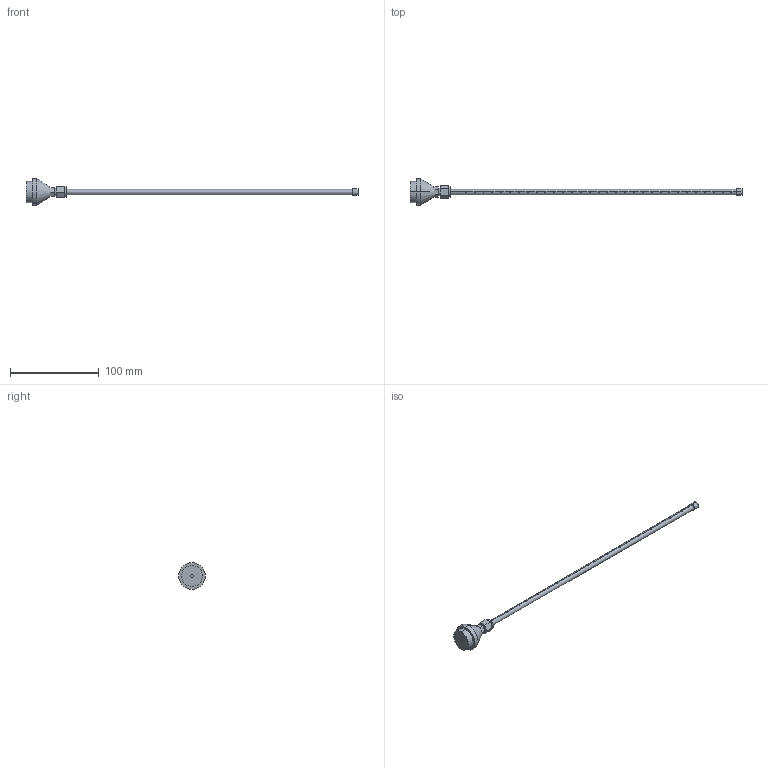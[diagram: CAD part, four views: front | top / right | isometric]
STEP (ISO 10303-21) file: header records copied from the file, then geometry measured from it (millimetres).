
FILE_DESCRIPTION (( 'STEP AP203' ), '1' );
FILE_NAME ('ER-AB30.STEP', '2005-09-05T00:34:01', ( '' ), ( '' ), 'SwSTEP 2.0', 'SolidWorks 2004073', '' );
FILE_SCHEMA (( 'CONFIG_CONTROL_DESIGN' ));
Length unit declared in the file: millimetre
Products named in the file (1): ER-AB30
Bounding box: 375 x 30 x 30 mm (x, y, z)
Volume: 20897.1 mm3; surface area: 13672.2 mm2
Topology: 1 solids, 1 shells, 105 faces, 340 edges, 182 vertices
Faces by surface type: cylinder 76, plane 27, cone 2
Entity records: 4895 total; most frequent: CARTESIAN_POINT 2054, ORIENTED_EDGE 680, DIRECTION 462, EDGE_CURVE 340, LINE 182, VECTOR 182, VERTEX_POINT 182, AXIS2_PLACEMENT_3D 140
